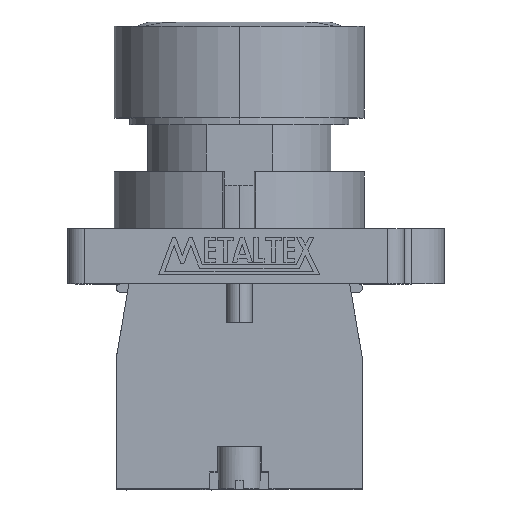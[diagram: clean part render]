
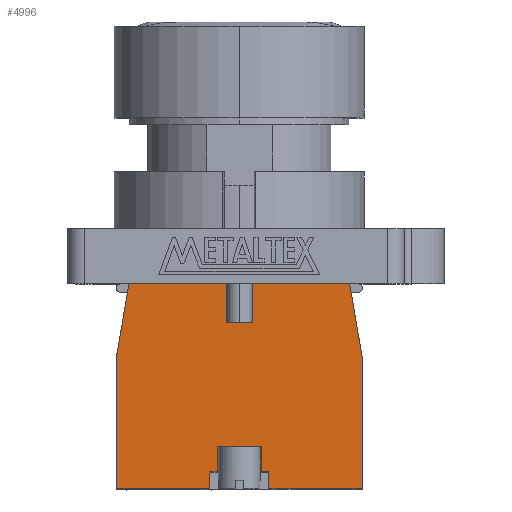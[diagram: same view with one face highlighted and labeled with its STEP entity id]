
A CAD part, top view. The second image highlights one B-rep face of the part: STEP entity #4996.
In plain terms, the highlighted planar face has unit normal (0, 0, 1).
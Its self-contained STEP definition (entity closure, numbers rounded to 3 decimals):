
#1988 = AXIS2_PLACEMENT_3D ( 'NONE', #5245, #5246, #5247 ) ;
#1991 = FACE_OUTER_BOUND ( 'NONE', #3537, .T. ) ;
#2799 = VECTOR ( 'NONE', #9870, 1000. ) ;
#2801 = VECTOR ( 'NONE', #9984, 1000. ) ;
#2814 = VECTOR ( 'NONE', #9861, 1000. ) ;
#2855 = VECTOR ( 'NONE', #9999, 1000. ) ;
#2861 = VECTOR ( 'NONE', #9996, 1000. ) ;
#2894 = VECTOR ( 'NONE', #10008, 1000. ) ;
#2895 = VECTOR ( 'NONE', #10005, 1000. ) ;
#2896 = VECTOR ( 'NONE', #10011, 1000. ) ;
#2898 = VECTOR ( 'NONE', #10002, 1000. ) ;
#2922 = VECTOR ( 'NONE', #11781, 1000. ) ;
#2937 = VECTOR ( 'NONE', #11760, 1000. ) ;
#2947 = VECTOR ( 'NONE', #11745, 1000. ) ;
#3012 = VECTOR ( 'NONE', #10017, 1000. ) ;
#3014 = VECTOR ( 'NONE', #10020, 1000. ) ;
#3037 = VECTOR ( 'NONE', #10014, 1000. ) ;
#3101 = VECTOR ( 'NONE', #11643, 1000. ) ;
#3142 = VECTOR ( 'NONE', #11631, 1000. ) ;
#3166 = VECTOR ( 'NONE', #11610, 1000. ) ;
#3537 = EDGE_LOOP ( 'NONE', ( #8758, #8756, #8759, #8757, #8755, #8754, #8752, #8753, #8751, #8750, #8748, #8749, #8747, #8745, #8746, #8744, #8743, #8741 ) ) ;
#4220 = EDGE_CURVE ( 'NONE', #7207, #7208, #11608, .T. ) ;
#4227 = EDGE_CURVE ( 'NONE', #7203, #7204, #11629, .T. ) ;
#4231 = EDGE_CURVE ( 'NONE', #7208, #7201, #11641, .T. ) ;
#4265 = EDGE_CURVE ( 'NONE', #9518, #9517, #11743, .T. ) ;
#4270 = EDGE_CURVE ( 'NONE', #9514, #9512, #11758, .T. ) ;
#4277 = EDGE_CURVE ( 'NONE', #9504, #9505, #11779, .T. ) ;
#4344 = EDGE_CURVE ( 'NONE', #9446, #9445, #9859, .T. ) ;
#4347 = EDGE_CURVE ( 'NONE', #9505, #9442, #9868, .T. ) ;
#4385 = EDGE_CURVE ( 'NONE', #9445, #7207, #9982, .T. ) ;
#4389 = EDGE_CURVE ( 'NONE', #7204, #9504, #9994, .T. ) ;
#4390 = EDGE_CURVE ( 'NONE', #9512, #7203, #9997, .T. ) ;
#4391 = EDGE_CURVE ( 'NONE', #9442, #9412, #10000, .T. ) ;
#4392 = EDGE_CURVE ( 'NONE', #9412, #9411, #10003, .T. ) ;
#4393 = EDGE_CURVE ( 'NONE', #9411, #9517, #10006, .T. ) ;
#4394 = EDGE_CURVE ( 'NONE', #9410, #9518, #10009, .T. ) ;
#4395 = EDGE_CURVE ( 'NONE', #9410, #9409, #10012, .T. ) ;
#4396 = EDGE_CURVE ( 'NONE', #9446, #9409, #10015, .T. ) ;
#4397 = EDGE_CURVE ( 'NONE', #9514, #7201, #10018, .T. ) ;
#4996 = ADVANCED_FACE ( 'NONE', ( #1991 ), #5244, .T. ) ;
#5244 = PLANE ( 'NONE',  #1988 ) ;
#5245 = CARTESIAN_POINT ( 'NONE',  ( 0., 0., 7.45 ) ) ;
#5246 = DIRECTION ( 'NONE',  ( 0., 0., 1. ) ) ;
#5247 = DIRECTION ( 'NONE',  ( 1., 0., 0. ) ) ;
#6242 = CARTESIAN_POINT ( 'NONE',  ( 1.5, 24.2, 7.45 ) ) ;
#6245 = CARTESIAN_POINT ( 'NONE',  ( -1.5, 24.2, 7.45 ) ) ;
#6247 = CARTESIAN_POINT ( 'NONE',  ( -13., 24.2, 7.45 ) ) ;
#6250 = CARTESIAN_POINT ( 'NONE',  ( 14.5, 15.5, 7.45 ) ) ;
#6252 = CARTESIAN_POINT ( 'NONE',  ( 13., 24.2, 7.45 ) ) ;
#6826 = CARTESIAN_POINT ( 'NONE',  ( 3.5, 2., 7.45 ) ) ;
#6827 = CARTESIAN_POINT ( 'NONE',  ( 2.6, 2., 7.45 ) ) ;
#6828 = CARTESIAN_POINT ( 'NONE',  ( -2.6, 2., 7.45 ) ) ;
#6829 = CARTESIAN_POINT ( 'NONE',  ( -3.5, 2., 7.45 ) ) ;
#6859 = CARTESIAN_POINT ( 'NONE',  ( -3.5, 0., 7.45 ) ) ;
#6862 = CARTESIAN_POINT ( 'NONE',  ( 14.5, 0., 7.45 ) ) ;
#6863 = CARTESIAN_POINT ( 'NONE',  ( 3.5, 0., 7.45 ) ) ;
#6921 = CARTESIAN_POINT ( 'NONE',  ( -14.5, 15.5, 7.45 ) ) ;
#6922 = CARTESIAN_POINT ( 'NONE',  ( -14.5, 0., 7.45 ) ) ;
#6929 = CARTESIAN_POINT ( 'NONE',  ( -1.5, 19.6, 7.45 ) ) ;
#6931 = CARTESIAN_POINT ( 'NONE',  ( 1.5, 19.6, 7.45 ) ) ;
#6934 = CARTESIAN_POINT ( 'NONE',  ( -2.6, 5., 7.45 ) ) ;
#6935 = CARTESIAN_POINT ( 'NONE',  ( 2.6, 5., 7.45 ) ) ;
#7201 = VERTEX_POINT ( 'NONE', #6242 ) ;
#7203 = VERTEX_POINT ( 'NONE', #6245 ) ;
#7204 = VERTEX_POINT ( 'NONE', #6247 ) ;
#7207 = VERTEX_POINT ( 'NONE', #6250 ) ;
#7208 = VERTEX_POINT ( 'NONE', #6252 ) ;
#8741 = ORIENTED_EDGE ( 'NONE', *, *, #4270, .T. ) ;
#8743 = ORIENTED_EDGE ( 'NONE', *, *, #4397, .F. ) ;
#8744 = ORIENTED_EDGE ( 'NONE', *, *, #4231, .T. ) ;
#8745 = ORIENTED_EDGE ( 'NONE', *, *, #4385, .T. ) ;
#8746 = ORIENTED_EDGE ( 'NONE', *, *, #4220, .T. ) ;
#8747 = ORIENTED_EDGE ( 'NONE', *, *, #4344, .T. ) ;
#8748 = ORIENTED_EDGE ( 'NONE', *, *, #4395, .T. ) ;
#8749 = ORIENTED_EDGE ( 'NONE', *, *, #4396, .F. ) ;
#8750 = ORIENTED_EDGE ( 'NONE', *, *, #4394, .F. ) ;
#8751 = ORIENTED_EDGE ( 'NONE', *, *, #4265, .F. ) ;
#8752 = ORIENTED_EDGE ( 'NONE', *, *, #4392, .T. ) ;
#8753 = ORIENTED_EDGE ( 'NONE', *, *, #4393, .T. ) ;
#8754 = ORIENTED_EDGE ( 'NONE', *, *, #4391, .T. ) ;
#8755 = ORIENTED_EDGE ( 'NONE', *, *, #4347, .T. ) ;
#8756 = ORIENTED_EDGE ( 'NONE', *, *, #4227, .T. ) ;
#8757 = ORIENTED_EDGE ( 'NONE', *, *, #4277, .T. ) ;
#8758 = ORIENTED_EDGE ( 'NONE', *, *, #4390, .T. ) ;
#8759 = ORIENTED_EDGE ( 'NONE', *, *, #4389, .T. ) ;
#9409 = VERTEX_POINT ( 'NONE', #6826 ) ;
#9410 = VERTEX_POINT ( 'NONE', #6827 ) ;
#9411 = VERTEX_POINT ( 'NONE', #6828 ) ;
#9412 = VERTEX_POINT ( 'NONE', #6829 ) ;
#9442 = VERTEX_POINT ( 'NONE', #6859 ) ;
#9445 = VERTEX_POINT ( 'NONE', #6862 ) ;
#9446 = VERTEX_POINT ( 'NONE', #6863 ) ;
#9504 = VERTEX_POINT ( 'NONE', #6921 ) ;
#9505 = VERTEX_POINT ( 'NONE', #6922 ) ;
#9512 = VERTEX_POINT ( 'NONE', #6929 ) ;
#9514 = VERTEX_POINT ( 'NONE', #6931 ) ;
#9517 = VERTEX_POINT ( 'NONE', #6934 ) ;
#9518 = VERTEX_POINT ( 'NONE', #6935 ) ;
#9859 = LINE ( 'NONE', #9860, #2814 ) ;
#9860 = CARTESIAN_POINT ( 'NONE',  ( -14.5, 0., 7.45 ) ) ;
#9861 = DIRECTION ( 'NONE',  ( 1., 0., 0. ) ) ;
#9868 = LINE ( 'NONE', #9869, #2799 ) ;
#9869 = CARTESIAN_POINT ( 'NONE',  ( -14.5, 0., 7.45 ) ) ;
#9870 = DIRECTION ( 'NONE',  ( 1., 0., 0. ) ) ;
#9982 = LINE ( 'NONE', #9983, #2801 ) ;
#9983 = CARTESIAN_POINT ( 'NONE',  ( 14.5, 0., 7.45 ) ) ;
#9984 = DIRECTION ( 'NONE',  ( 0., 1., 0. ) ) ;
#9994 = LINE ( 'NONE', #9995, #2861 ) ;
#9995 = CARTESIAN_POINT ( 'NONE',  ( -13., 24.2, 7.45 ) ) ;
#9996 = DIRECTION ( 'NONE',  ( -0.17, -0.985, 0. ) ) ;
#9997 = LINE ( 'NONE', #9998, #2855 ) ;
#9998 = CARTESIAN_POINT ( 'NONE',  ( -1.5, 19.6, 7.45 ) ) ;
#9999 = DIRECTION ( 'NONE',  ( 0., 1., 0. ) ) ;
#10000 = LINE ( 'NONE', #10001, #2898 ) ;
#10001 = CARTESIAN_POINT ( 'NONE',  ( -3.5, 0., 7.45 ) ) ;
#10002 = DIRECTION ( 'NONE',  ( 0., 1., 0. ) ) ;
#10003 = LINE ( 'NONE', #10004, #2895 ) ;
#10004 = CARTESIAN_POINT ( 'NONE',  ( 0., 2., 7.45 ) ) ;
#10005 = DIRECTION ( 'NONE',  ( 1., 0., 0. ) ) ;
#10006 = LINE ( 'NONE', #10007, #2894 ) ;
#10007 = CARTESIAN_POINT ( 'NONE',  ( -2.6, 0., 7.45 ) ) ;
#10008 = DIRECTION ( 'NONE',  ( 0., 1., 0. ) ) ;
#10009 = LINE ( 'NONE', #10010, #2896 ) ;
#10010 = CARTESIAN_POINT ( 'NONE',  ( 2.6, 0., 7.45 ) ) ;
#10011 = DIRECTION ( 'NONE',  ( 0., 1., 0. ) ) ;
#10012 = LINE ( 'NONE', #10013, #3037 ) ;
#10013 = CARTESIAN_POINT ( 'NONE',  ( 0., 2., 7.45 ) ) ;
#10014 = DIRECTION ( 'NONE',  ( 1., 0., 0. ) ) ;
#10015 = LINE ( 'NONE', #10016, #3012 ) ;
#10016 = CARTESIAN_POINT ( 'NONE',  ( 3.5, 0., 7.45 ) ) ;
#10017 = DIRECTION ( 'NONE',  ( 0., 1., 0. ) ) ;
#10018 = LINE ( 'NONE', #10019, #3014 ) ;
#10019 = CARTESIAN_POINT ( 'NONE',  ( 1.5, 19.6, 7.45 ) ) ;
#10020 = DIRECTION ( 'NONE',  ( 0., 1., 0. ) ) ;
#11608 = LINE ( 'NONE', #11609, #3166 ) ;
#11609 = CARTESIAN_POINT ( 'NONE',  ( 14.5, 15.5, 7.45 ) ) ;
#11610 = DIRECTION ( 'NONE',  ( -0.17, 0.985, 0. ) ) ;
#11629 = LINE ( 'NONE', #11630, #3142 ) ;
#11630 = CARTESIAN_POINT ( 'NONE',  ( 13., 24.2, 7.45 ) ) ;
#11631 = DIRECTION ( 'NONE',  ( -1., 0., 0. ) ) ;
#11641 = LINE ( 'NONE', #11642, #3101 ) ;
#11642 = CARTESIAN_POINT ( 'NONE',  ( 13., 24.2, 7.45 ) ) ;
#11643 = DIRECTION ( 'NONE',  ( -1., 0., 0. ) ) ;
#11743 = LINE ( 'NONE', #11744, #2947 ) ;
#11744 = CARTESIAN_POINT ( 'NONE',  ( 0., 5., 7.45 ) ) ;
#11745 = DIRECTION ( 'NONE',  ( -1., 0., 0. ) ) ;
#11758 = LINE ( 'NONE', #11759, #2937 ) ;
#11759 = CARTESIAN_POINT ( 'NONE',  ( 0., 19.6, 7.45 ) ) ;
#11760 = DIRECTION ( 'NONE',  ( -1., 0., 0. ) ) ;
#11779 = LINE ( 'NONE', #11780, #2922 ) ;
#11780 = CARTESIAN_POINT ( 'NONE',  ( -14.5, 15.5, 7.45 ) ) ;
#11781 = DIRECTION ( 'NONE',  ( 0., -1., 0. ) ) ;
